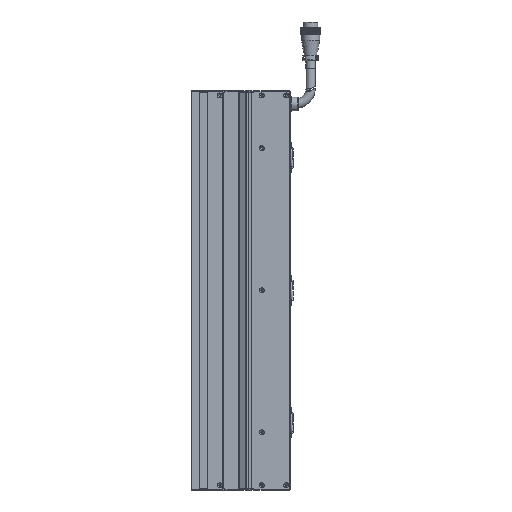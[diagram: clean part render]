
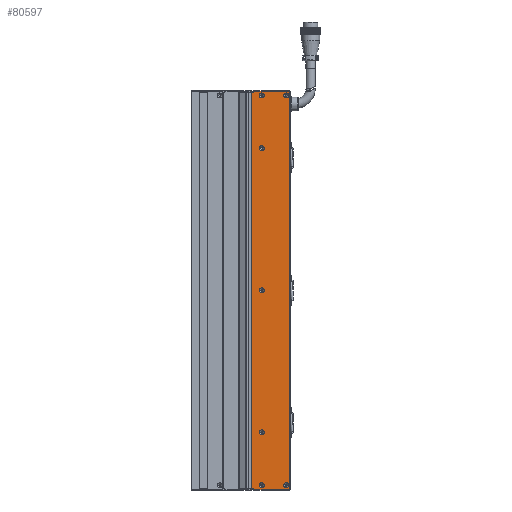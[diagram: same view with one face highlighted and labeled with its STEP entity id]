
A CAD part, left-side view. The second image highlights one B-rep face of the part: STEP entity #80597.
In plain terms, the highlighted planar face has unit normal (-1, 0, 0).
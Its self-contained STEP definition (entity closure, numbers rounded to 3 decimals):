
#341 = EDGE_CURVE ( 'NONE', #40203, #11388, #12263, .T. ) ;
#1250 = CARTESIAN_POINT ( 'NONE',  ( -24.998, -36.5, -243.85 ) ) ;
#1293 = DIRECTION ( 'NONE',  ( 0., 0., 1. ) ) ;
#2194 = CARTESIAN_POINT ( 'NONE',  ( -24.998, -72.5, 251. ) ) ;
#2242 = DIRECTION ( 'NONE',  ( -1., 0., 0. ) ) ;
#2479 = DIRECTION ( 'NONE',  ( 0., 0., -1. ) ) ;
#2484 = ORIENTED_EDGE ( 'NONE', *, *, #16839, .F. ) ;
#3922 = DIRECTION ( 'NONE',  ( 0., 1., 0. ) ) ;
#4679 = AXIS2_PLACEMENT_3D ( 'NONE', #62673, #47484, #24961 ) ;
#4844 = CARTESIAN_POINT ( 'NONE',  ( -24.998, -23.25, -251. ) ) ;
#5741 = VERTEX_POINT ( 'NONE', #86153 ) ;
#7350 = VERTEX_POINT ( 'NONE', #16958 ) ;
#9257 = CARTESIAN_POINT ( 'NONE',  ( -24.998, -72.5, -251. ) ) ;
#9398 = VERTEX_POINT ( 'NONE', #28820 ) ;
#9730 = ORIENTED_EDGE ( 'NONE', *, *, #28770, .F. ) ;
#9798 = EDGE_LOOP ( 'NONE', ( #11041 ) ) ;
#10535 = CARTESIAN_POINT ( 'NONE',  ( -24.998, -72.5, -252.5 ) ) ;
#11041 = ORIENTED_EDGE ( 'NONE', *, *, #93194, .F. ) ;
#11388 = VERTEX_POINT ( 'NONE', #94237 ) ;
#11915 = FACE_BOUND ( 'NONE', #9798, .T. ) ;
#12263 = LINE ( 'NONE', #4844, #96185 ) ;
#13145 = CARTESIAN_POINT ( 'NONE',  ( -24.998, -67.5, -247. ) ) ;
#14309 = AXIS2_PLACEMENT_3D ( 'NONE', #27621, #89397, #66670 ) ;
#14530 = VERTEX_POINT ( 'NONE', #42010 ) ;
#16839 = EDGE_CURVE ( 'NONE', #21341, #21341, #59397, .T. ) ;
#16958 = CARTESIAN_POINT ( 'NONE',  ( -24.998, -72., 252.5 ) ) ;
#17133 = ORIENTED_EDGE ( 'NONE', *, *, #341, .F. ) ;
#18785 = EDGE_CURVE ( 'NONE', #95826, #95826, #34329, .T. ) ;
#18931 = VECTOR ( 'NONE', #74147, 1000. ) ;
#18970 = VERTEX_POINT ( 'NONE', #38531 ) ;
#19298 = CIRCLE ( 'NONE', #4679, 3.15 ) ;
#20063 = DIRECTION ( 'NONE',  ( 0., 0., 1. ) ) ;
#20163 = EDGE_CURVE ( 'NONE', #46581, #41915, #81676, .T. ) ;
#20563 = VECTOR ( 'NONE', #38816, 1000. ) ;
#21341 = VERTEX_POINT ( 'NONE', #37873 ) ;
#21630 = EDGE_CURVE ( 'NONE', #47387, #47387, #73294, .T. ) ;
#21903 = CIRCLE ( 'NONE', #71583, 3.15 ) ;
#23832 = VECTOR ( 'NONE', #39800, 1000. ) ;
#24961 = DIRECTION ( 'NONE',  ( 0., 0., 1. ) ) ;
#25040 = DIRECTION ( 'NONE',  ( 0., 0., 1. ) ) ;
#26219 = DIRECTION ( 'NONE',  ( 0., 0., 1. ) ) ;
#26243 = EDGE_CURVE ( 'NONE', #18970, #18970, #83491, .T. ) ;
#27621 = CARTESIAN_POINT ( 'NONE',  ( -24.998, -36.5, 0. ) ) ;
#28770 = EDGE_CURVE ( 'NONE', #56862, #56862, #19298, .T. ) ;
#28820 = CARTESIAN_POINT ( 'NONE',  ( -24.998, -67.5, 250.15 ) ) ;
#29641 = FACE_BOUND ( 'NONE', #38921, .T. ) ;
#30863 = CARTESIAN_POINT ( 'NONE',  ( -24.998, -72., 251. ) ) ;
#31998 = FACE_BOUND ( 'NONE', #34693, .T. ) ;
#34329 = CIRCLE ( 'NONE', #37953, 3.15 ) ;
#34693 = EDGE_LOOP ( 'NONE', ( #42114 ) ) ;
#34974 = DIRECTION ( 'NONE',  ( -1., 0., 0. ) ) ;
#35196 = DIRECTION ( 'NONE',  ( -1., 0., 0. ) ) ;
#35592 = EDGE_CURVE ( 'NONE', #46581, #7350, #50182, .T. ) ;
#35834 = DIRECTION ( 'NONE',  ( 0., 0., 1. ) ) ;
#36705 = LINE ( 'NONE', #58893, #18931 ) ;
#36716 = VECTOR ( 'NONE', #56149, 1000. ) ;
#36901 = AXIS2_PLACEMENT_3D ( 'NONE', #40903, #48537, #25040 ) ;
#37873 = CARTESIAN_POINT ( 'NONE',  ( -24.998, -36.5, 3.15 ) ) ;
#37953 = AXIS2_PLACEMENT_3D ( 'NONE', #40168, #2242, #1293 ) ;
#38196 = CARTESIAN_POINT ( 'NONE',  ( -24.998, -67.5, -243.85 ) ) ;
#38531 = CARTESIAN_POINT ( 'NONE',  ( -24.998, -36.5, 250.15 ) ) ;
#38816 = DIRECTION ( 'NONE',  ( 0., 0., 1. ) ) ;
#38921 = EDGE_LOOP ( 'NONE', ( #9730 ) ) ;
#39800 = DIRECTION ( 'NONE',  ( 0., 0., 1. ) ) ;
#40168 = CARTESIAN_POINT ( 'NONE',  ( -24.998, -36.5, -180. ) ) ;
#40203 = VERTEX_POINT ( 'NONE', #62050 ) ;
#40903 = CARTESIAN_POINT ( 'NONE',  ( -24.998, -36.5, 180. ) ) ;
#41572 = ORIENTED_EDGE ( 'NONE', *, *, #35592, .T. ) ;
#41579 = LINE ( 'NONE', #85726, #23832 ) ;
#41915 = VERTEX_POINT ( 'NONE', #65548 ) ;
#42010 = CARTESIAN_POINT ( 'NONE',  ( -24.998, -26.5, 252.5 ) ) ;
#42114 = ORIENTED_EDGE ( 'NONE', *, *, #21630, .F. ) ;
#42421 = CARTESIAN_POINT ( 'NONE',  ( -24.998, -36.5, 247. ) ) ;
#44532 = VECTOR ( 'NONE', #3922, 1000. ) ;
#45348 = ORIENTED_EDGE ( 'NONE', *, *, #59679, .T. ) ;
#46581 = VERTEX_POINT ( 'NONE', #79098 ) ;
#47387 = VERTEX_POINT ( 'NONE', #38196 ) ;
#47484 = DIRECTION ( 'NONE',  ( -1., 0., 0. ) ) ;
#48537 = DIRECTION ( 'NONE',  ( -1., 0., 0. ) ) ;
#49077 = DIRECTION ( 'NONE',  ( -1., 0., 0. ) ) ;
#49124 = CARTESIAN_POINT ( 'NONE',  ( -24.998, -72.5, 252.5 ) ) ;
#49566 = AXIS2_PLACEMENT_3D ( 'NONE', #92933, #55291, #2479 ) ;
#49776 = FACE_BOUND ( 'NONE', #62260, .T. ) ;
#49877 = VECTOR ( 'NONE', #55810, 1000. ) ;
#50182 = LINE ( 'NONE', #30863, #20563 ) ;
#50211 = AXIS2_PLACEMENT_3D ( 'NONE', #42421, #49077, #26219 ) ;
#51042 = CARTESIAN_POINT ( 'NONE',  ( -24.998, -67.5, 247. ) ) ;
#51745 = EDGE_CURVE ( 'NONE', #7350, #14530, #62267, .T. ) ;
#55291 = DIRECTION ( 'NONE',  ( 1., 0., 0. ) ) ;
#55810 = DIRECTION ( 'NONE',  ( 0., -1., 0. ) ) ;
#56149 = DIRECTION ( 'NONE',  ( 0., 1., 0. ) ) ;
#56862 = VERTEX_POINT ( 'NONE', #1250 ) ;
#57994 = FACE_BOUND ( 'NONE', #68324, .T. ) ;
#58893 = CARTESIAN_POINT ( 'NONE',  ( -24.998, -26.5, 244. ) ) ;
#59397 = CIRCLE ( 'NONE', #14309, 3.15 ) ;
#59679 = EDGE_CURVE ( 'NONE', #40203, #5741, #70008, .T. ) ;
#61204 = EDGE_LOOP ( 'NONE', ( #2484 ) ) ;
#62050 = CARTESIAN_POINT ( 'NONE',  ( -24.998, -23.25, -251. ) ) ;
#62260 = EDGE_LOOP ( 'NONE', ( #74843 ) ) ;
#62267 = LINE ( 'NONE', #49124, #44532 ) ;
#62673 = CARTESIAN_POINT ( 'NONE',  ( -24.998, -36.5, -247. ) ) ;
#64332 = CARTESIAN_POINT ( 'NONE',  ( -24.998, -26.5, 251. ) ) ;
#65548 = CARTESIAN_POINT ( 'NONE',  ( -24.998, -26.5, -252.5 ) ) ;
#66670 = DIRECTION ( 'NONE',  ( 0., 0., 1. ) ) ;
#66700 = EDGE_LOOP ( 'NONE', ( #85482 ) ) ;
#66713 = EDGE_LOOP ( 'NONE', ( #45348, #68938, #76243, #41572, #67296, #84243, #79518, #17133 ) ) ;
#67296 = ORIENTED_EDGE ( 'NONE', *, *, #51745, .T. ) ;
#68324 = EDGE_LOOP ( 'NONE', ( #89538 ) ) ;
#68938 = ORIENTED_EDGE ( 'NONE', *, *, #78952, .F. ) ;
#70008 = LINE ( 'NONE', #9257, #49877 ) ;
#71583 = AXIS2_PLACEMENT_3D ( 'NONE', #51042, #35196, #35834 ) ;
#72522 = EDGE_CURVE ( 'NONE', #14530, #97882, #36705, .T. ) ;
#73294 = CIRCLE ( 'NONE', #81063, 3.15 ) ;
#74147 = DIRECTION ( 'NONE',  ( 0., 0., -1. ) ) ;
#74843 = ORIENTED_EDGE ( 'NONE', *, *, #75041, .F. ) ;
#75041 = EDGE_CURVE ( 'NONE', #75610, #75610, #75779, .T. ) ;
#75610 = VERTEX_POINT ( 'NONE', #87678 ) ;
#75779 = CIRCLE ( 'NONE', #36901, 3.15 ) ;
#75824 = FACE_BOUND ( 'NONE', #61204, .T. ) ;
#76243 = ORIENTED_EDGE ( 'NONE', *, *, #20163, .F. ) ;
#78771 = PLANE ( 'NONE',  #49566 ) ;
#78952 = EDGE_CURVE ( 'NONE', #41915, #5741, #41579, .T. ) ;
#79098 = CARTESIAN_POINT ( 'NONE',  ( -24.998, -72., -252.5 ) ) ;
#79518 = ORIENTED_EDGE ( 'NONE', *, *, #83183, .F. ) ;
#80597 = ADVANCED_FACE ( 'NONE', ( #93441, #11915, #57994, #49776, #75824, #31998, #29641, #82864 ), #78771, .F. ) ;
#81063 = AXIS2_PLACEMENT_3D ( 'NONE', #13145, #34974, #20063 ) ;
#81676 = LINE ( 'NONE', #10535, #36716 ) ;
#82864 = FACE_OUTER_BOUND ( 'NONE', #66713, .T. ) ;
#83125 = CARTESIAN_POINT ( 'NONE',  ( -24.998, -36.5, -176.85 ) ) ;
#83183 = EDGE_CURVE ( 'NONE', #11388, #97882, #96782, .T. ) ;
#83491 = CIRCLE ( 'NONE', #50211, 3.15 ) ;
#84243 = ORIENTED_EDGE ( 'NONE', *, *, #72522, .T. ) ;
#85058 = VECTOR ( 'NONE', #85727, 1000. ) ;
#85482 = ORIENTED_EDGE ( 'NONE', *, *, #18785, .F. ) ;
#85726 = CARTESIAN_POINT ( 'NONE',  ( -24.998, -26.5, -244. ) ) ;
#85727 = DIRECTION ( 'NONE',  ( 0., -1., 0. ) ) ;
#86153 = CARTESIAN_POINT ( 'NONE',  ( -24.998, -26.5, -251. ) ) ;
#87678 = CARTESIAN_POINT ( 'NONE',  ( -24.998, -36.5, 183.15 ) ) ;
#88679 = DIRECTION ( 'NONE',  ( 0., 0., 1. ) ) ;
#89397 = DIRECTION ( 'NONE',  ( -1., 0., 0. ) ) ;
#89538 = ORIENTED_EDGE ( 'NONE', *, *, #26243, .F. ) ;
#92933 = CARTESIAN_POINT ( 'NONE',  ( -24.998, -72.5, 251. ) ) ;
#93194 = EDGE_CURVE ( 'NONE', #9398, #9398, #21903, .T. ) ;
#93441 = FACE_BOUND ( 'NONE', #66700, .T. ) ;
#94237 = CARTESIAN_POINT ( 'NONE',  ( -24.998, -23.25, 251. ) ) ;
#95826 = VERTEX_POINT ( 'NONE', #83125 ) ;
#96185 = VECTOR ( 'NONE', #88679, 1000. ) ;
#96782 = LINE ( 'NONE', #2194, #85058 ) ;
#97882 = VERTEX_POINT ( 'NONE', #64332 ) ;
